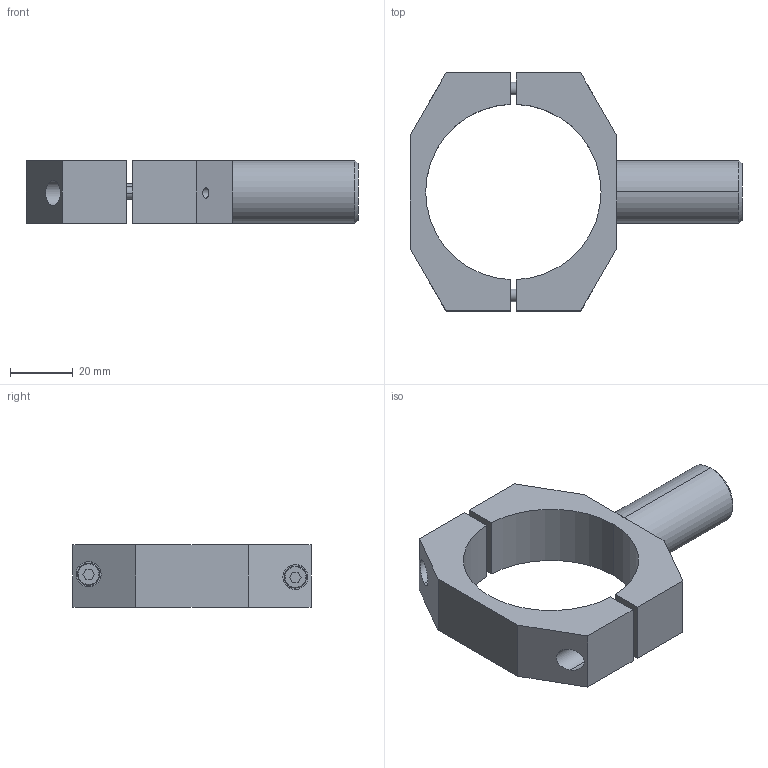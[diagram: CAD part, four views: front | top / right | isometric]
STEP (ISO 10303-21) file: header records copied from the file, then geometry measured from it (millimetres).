
FILE_DESCRIPTION (( 'STEP AP214' ), '1' );
FILE_NAME ('SCE1-NS30T.STEP', '2023-01-16T03:34:38', ( 'Windows User' ), ( 'P R C' ), 'SwSTEP 2.0', 'SolidWorks 2019', '' );
FILE_SCHEMA (( 'AUTOMOTIVE_DESIGN' ));
Length unit declared in the file: millimetre
Products named in the file (4): SCE1-NS30; PTS-M4; PTC-M4L18; SCE1-NS30T
Assembly tree (5 placements, depth 2):
  SCE1-NS30T
    SCE1-NS30
    PTC-M4L18  x2
    PTS-M4  x2
Bounding box: 106 x 76 x 20 mm (x, y, z)
Volume: 44111.7 mm3; surface area: 20061.3 mm2
Topology: 6 solids, 6 shells, 413 faces, 1175 edges, 776 vertices
Faces by surface type: plane 362, cylinder 35, cone 16
Entity records: 7644 total; most frequent: CARTESIAN_POINT 1324, DIRECTION 1321, ORIENTED_EDGE 1282, EDGE_CURVE 641, AXIS2_PLACEMENT_3D 451, VERTEX_POINT 422, VECTOR 419, LINE 419
